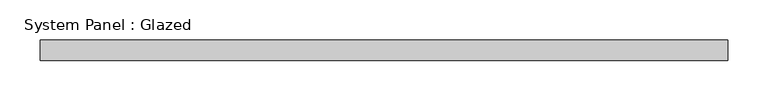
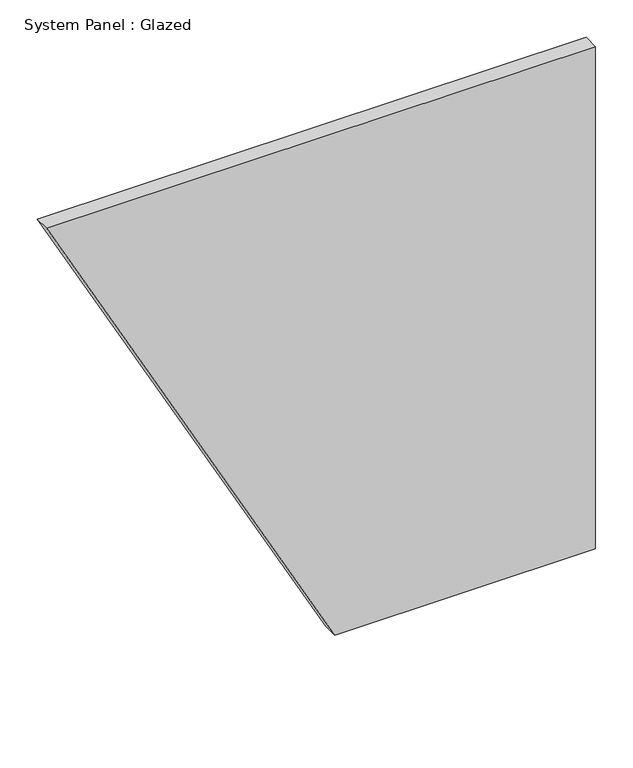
"""IFC4 building model written with IfcOpenShell, lengths in millimetres: plate geometry, System Panel : Glazed."""

import ifcopenshell
import ifcopenshell.guid

model = None  # the IFC model being written
_history = None  # IfcOwnerHistory: only IFC2X3 demands one
_inside = {}  # id of a spatial element -> (the spatial element, [elements in it])
_under = {}  # id of a project, library or spatial element -> (it, [spatial elements below it])
_declared = {}  # id of a project -> (the project, [libraries it declares])
_typed = {}  # id of a type object -> (the type object, [elements of that type])
_made_of = {}  # id of a material, layer set ... -> (it, [elements and type objects made of it])


def new_model(schema):
    """Start an empty IFC model of exactly this schema.

    Asked for "IFC4X3", IfcOpenShell would pick the latest addendum, in which some entities
    have other attributes; the version numbers below select the first issue.
    IFC2X3 requires an IfcOwnerHistory on every rooted entity: one is made here for all.
    """
    global model, _history
    if schema == "IFC4X3":
        model = ifcopenshell.file(schema_version=(4, 3, 0, 0))
    else:
        model = ifcopenshell.file(schema=schema)
    _inside.clear()
    _under.clear()
    _declared.clear()
    _typed.clear()
    _made_of.clear()
    _history = None
    if model.schema == "IFC2X3":
        org = make("IfcOrganization", Name="unknown")
        user = make(
            "IfcPersonAndOrganization",
            ThePerson=make("IfcPerson", FamilyName="unknown"),
            TheOrganization=org,
        )
        app = make(
            "IfcApplication",
            ApplicationDeveloper=org,
            Version="unknown",
            ApplicationFullName="unknown",
            ApplicationIdentifier="unknown",
        )
        _history = make(
            "IfcOwnerHistory",
            OwningUser=user,
            OwningApplication=app,
            ChangeAction="ADDED",
            CreationDate=0,
        )
    return model


def make(cls, **values):
    """One entity of the class cls with the attributes given. An attribute that is None is left unset."""
    return model.create_entity(
        cls, **{name: value for name, value in values.items() if value is not None}
    )


def rooted(cls, **values):
    """An entity with a GlobalId (a new one), such as an element, a storey or a relation."""
    return make(cls, GlobalId=ifcopenshell.guid.new(), OwnerHistory=_history, **values)


def si_unit(unit_type, name, prefix=None):
    """IfcSIUnit, for example si_unit("LENGTHUNIT", "METRE", prefix="MILLI")."""
    return make("IfcSIUnit", UnitType=unit_type, Prefix=prefix, Name=name)


def assignment(units):
    """IfcUnitAssignment: the units of a project."""
    return None if units is None else make("IfcUnitAssignment", Units=units)


def point(xyz):
    """IfcCartesianPoint."""
    return None if xyz is None else make("IfcCartesianPoint", Coordinates=xyz)


def direction(xyz):
    """IfcDirection."""
    return None if xyz is None else make("IfcDirection", DirectionRatios=xyz)


def frame(location, z_axis=None, x_axis=None):
    """IfcAxis2Placement3D, a coordinate frame: its origin and axes. An axis left out is left unset."""
    return make(
        "IfcAxis2Placement3D",
        Location=point(location),
        Axis=direction(z_axis),
        RefDirection=direction(x_axis),
    )


def origin():
    """The frame at (0, 0, 0) with its axes left unset."""
    return frame((0.0, 0.0, 0.0))


def place(relative_to, where):
    """IfcLocalPlacement: puts the frame where relative to a parent placement (None: the world)."""
    return make(
        "IfcLocalPlacement", PlacementRelTo=relative_to, RelativePlacement=where
    )


def context(
    kind, dimensions, precision=None, world=None, true_north=None, identifier=None
):
    """IfcGeometricRepresentationContext, for example the 3D "Model" context."""
    return make(
        "IfcGeometricRepresentationContext",
        ContextIdentifier=identifier,
        ContextType=kind,
        CoordinateSpaceDimension=dimensions,
        Precision=precision,
        WorldCoordinateSystem=world,
        TrueNorth=true_north,
    )


def project(units=None, contexts=None):
    """IfcProject with its units and contexts."""
    return rooted(
        "IfcProject",
        Name="project",
        RepresentationContexts=contexts,
        UnitsInContext=assignment(units),
    )


def spatial(cls, under=None, at=None, **own):
    """A site, building, storey or space (cls), placed at a placement, below another one or the project."""
    s = rooted(cls, ObjectPlacement=at, **own)
    if under is not None:
        _under.setdefault(under.id(), (under, []))[1].append(s)
    return s


def polyline(points):
    """IfcPolyline through the points."""
    return make("IfcPolyline", Points=[point(p) for p in points])


def outline(outer, holes=None, kind="AREA"):
    """IfcArbitraryClosedProfileDef: a profile drawn as a closed curve; with holes, ...WithVoids."""
    if holes is None:
        return make("IfcArbitraryClosedProfileDef", ProfileType=kind, OuterCurve=outer)
    return make(
        "IfcArbitraryProfileDefWithVoids",
        ProfileType=kind,
        OuterCurve=outer,
        InnerCurves=holes,
    )


def extrude(swept, where, along, depth):
    """IfcExtrudedAreaSolid: the profile swept, set in the frame where, extruded along a direction by depth."""
    return make(
        "IfcExtrudedAreaSolid",
        SweptArea=swept,
        Position=where,
        ExtrudedDirection=direction(along),
        Depth=depth,
    )


def shape(context_of_items, identifier, shape_type, items):
    """IfcShapeRepresentation: the items that make up one representation, for example the "Body"."""
    return make(
        "IfcShapeRepresentation",
        ContextOfItems=context_of_items,
        RepresentationIdentifier=identifier,
        RepresentationType=shape_type,
        Items=items,
    )


def source(mapping_origin, context_of_items, identifier, shape_type, items):
    """IfcRepresentationMap: a shape defined once, which mapped items show again and again."""
    return make(
        "IfcRepresentationMap",
        MappingOrigin=mapping_origin,
        MappedRepresentation=shape(context_of_items, identifier, shape_type, items),
    )


def transform(
    local_origin,
    x_axis=None,
    y_axis=None,
    z_axis=None,
    scale=None,
    scale2=None,
    scale3=None,
    uniform=True,
):
    """IfcCartesianTransformationOperator3D, or its non-uniform kind. x_axis, y_axis, z_axis: its Axis1, 2, 3."""
    if uniform:
        return make(
            "IfcCartesianTransformationOperator3D",
            Axis1=direction(x_axis),
            Axis2=direction(y_axis),
            LocalOrigin=point(local_origin),
            Scale=scale,
            Axis3=direction(z_axis),
        )
    return make(
        "IfcCartesianTransformationOperator3DnonUniform",
        Axis1=direction(x_axis),
        Axis2=direction(y_axis),
        LocalOrigin=point(local_origin),
        Scale=scale,
        Axis3=direction(z_axis),
        Scale2=scale2,
        Scale3=scale3,
    )


def mapped(mapping_source, mapping_target):
    """IfcMappedItem: shows the shape of a source again, moved by a transform."""
    return make(
        "IfcMappedItem", MappingSource=mapping_source, MappingTarget=mapping_target
    )


def made_of(thing, what):
    """Note that an element or type object is made of a material, layer set ...; save() writes the relation."""
    if what is not None:
        _made_of.setdefault(what.id(), (what, []))[1].append(thing)
    return thing


def element(
    cls,
    number,
    at=None,
    inside=None,
    cuts=None,
    type_object=None,
    material=None,
    context=None,
    identifier="Body",
    shape_type=None,
    held_by="IfcProductDefinitionShape",
    body=None,
    shapes=None,
    **own,
):
    """One element of the class cls, such as IfcWall. Its Tag is "e" and its number.

    at: its placement. inside: the storey or other place that contains it. cuts: it is an
    opening in that element (IfcRelVoidsElement). A single representation is given by context,
    identifier, shape_type and body (its items); several are given by shapes. held_by: the class
    of the entity that holds the representations. save() writes the other relations.
    """
    e = rooted(cls, Tag="e%d" % number, ObjectPlacement=at, **own)
    if body is not None:
        shapes = [shape(context, identifier, shape_type, body)]
    if shapes is not None:
        e.Representation = make(held_by, Representations=shapes)
    if inside is not None:
        _inside.setdefault(inside.id(), (inside, []))[1].append(e)
    if cuts is not None:
        rooted(
            "IfcRelVoidsElement", RelatingBuildingElement=cuts, RelatedOpeningElement=e
        )
    if type_object is not None:
        _typed.setdefault(type_object.id(), (type_object, []))[1].append(e)
    return made_of(e, material)


def aggregate(whole, parts):
    """IfcRelAggregates: a whole, such as a stair, and the parts it consists of."""
    return rooted("IfcRelAggregates", RelatingObject=whole, RelatedObjects=parts)


def save(model, path):
    """Write the relations noted so far, then the file.

    IfcRelAggregates (storeys below a building ...), IfcRelContainedInSpatialStructure (elements
    in a storey), IfcRelDefinesByType, IfcRelAssociatesMaterial and IfcRelDeclares: one each for
    every whole, place, type object, material and project.
    """
    for whole, parts in _under.values():
        aggregate(whole, parts)
    for where, things in _inside.values():
        rooted(
            "IfcRelContainedInSpatialStructure",
            RelatedElements=things,
            RelatingStructure=where,
        )
    for kind, things in _typed.values():
        rooted("IfcRelDefinesByType", RelatedObjects=things, RelatingType=kind)
    for what, things in _made_of.values():
        rooted("IfcRelAssociatesMaterial", RelatedObjects=things, RelatingMaterial=what)
    for by, libraries in _declared.values():
        rooted("IfcRelDeclares", RelatingContext=by, RelatedDefinitions=libraries)
    model.write(path)


def system_panel_glazed_2e5d5ee2(model_context):
    return source(origin(), model_context, "Body", "SweptSolid", [
        extrude(outline(polyline([(0.0, 21.4739236), (0.0, 425.1247999), (823.0, 425.1247999), (823.0, -425.1247999), (0.0, 21.4739236)])), frame((0.0, -12.5, 0.0), z_axis=(0.0, 1.0, 0.0), x_axis=(0.0, 0.0, 1.0)), (0.0, 0.0, 1.0), 25.0),
    ])


if __name__ == "__main__":
    model = new_model("IFC4")
    model_context = context("Model", 3, world=origin())
    ifc_project = project(units=[si_unit("LENGTHUNIT", "METRE", prefix="MILLI")], contexts=[model_context])
    site = spatial("IfcSite", under=ifc_project)
    building = spatial("IfcBuilding", under=site)
    placement = place(None, origin())
    system_panel_glazed_shape = system_panel_glazed_2e5d5ee2(model_context)
    element("IfcPlate", 1, ObjectType="System Panel : Glazed", at=placement, inside=building, context=model_context, shape_type="MappedRepresentation", body=[
        mapped(system_panel_glazed_shape, transform((0.0, 0.0, 0.0), x_axis=(1.0, 0.0, 0.0), y_axis=(0.0, 1.0, 0.0), z_axis=(0.0, 0.0, 1.0))),
    ])
    save(model, "model.ifc")
